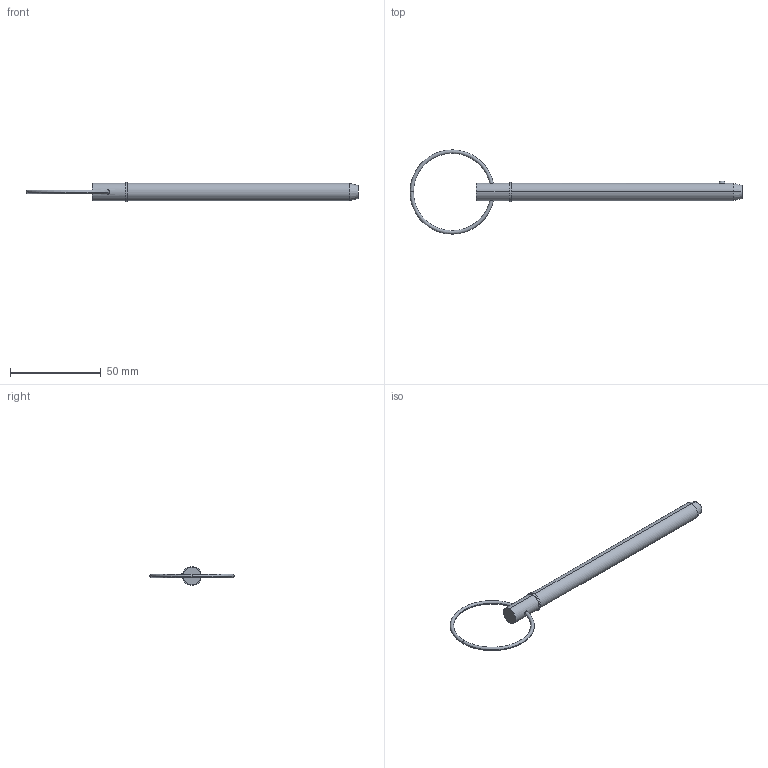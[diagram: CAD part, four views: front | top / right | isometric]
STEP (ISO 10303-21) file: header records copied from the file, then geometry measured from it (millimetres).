
FILE_DESCRIPTION (( 'STEP AP203' ), '1' );
FILE_NAME ('33014.W3745.step', '2024-11-04T08:27:15', ( '' ), ( '' ), 'SwSTEP 2.0', 'SolidWorks 2019', '' );
FILE_SCHEMA (( 'CONFIG_CONTROL_DESIGN' ));
Length unit declared in the file: millimetre
Products named in the file (3): Part2_33014.W3745; Part1_33014.W3745; 33014.W3745
Assembly tree (2 placements, depth 2):
  33014.W3745
    Part1_33014.W3745
    Part2_33014.W3745
Bounding box: 182.63 x 46.36 x 10.48 mm (x, y, z)
Volume: 10723.1 mm3; surface area: 5408.6 mm2
Topology: 2 solids, 2 shells, 22 faces, 43 edges, 26 vertices
Faces by surface type: torus 8, cylinder 6, plane 4, sphere 2, cone 2
Entity records: 1005 total; most frequent: CARTESIAN_POINT 228, DIRECTION 120, ORIENTED_EDGE 86, AXIS2_PLACEMENT_3D 56, EDGE_CURVE 43, CIRCLE 29, EDGE_LOOP 27, VERTEX_POINT 26
